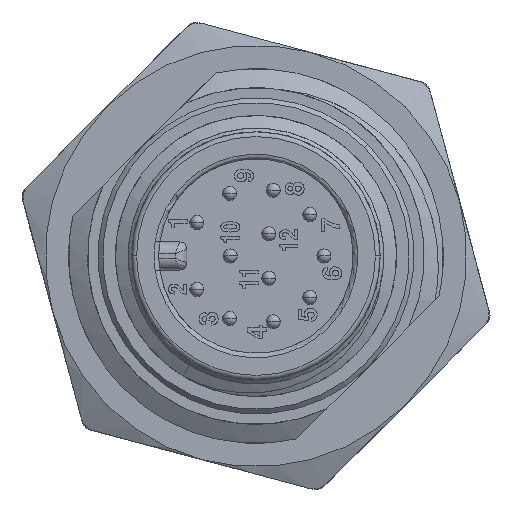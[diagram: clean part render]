
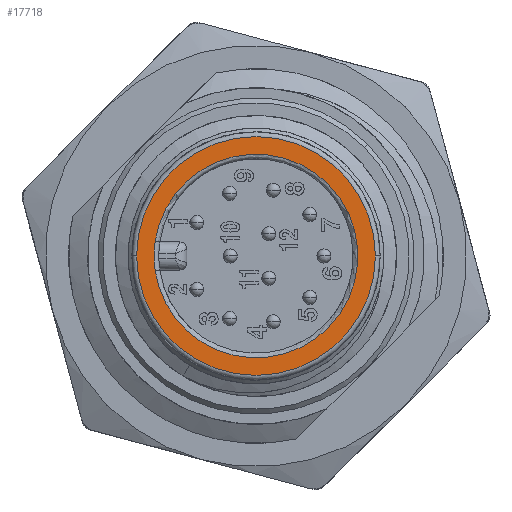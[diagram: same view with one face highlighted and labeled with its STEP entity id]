
A CAD part, left-side view. The second image highlights one B-rep face of the part: STEP entity #17718.
In plain terms, the highlighted planar face has unit normal (-1, 0, 0).
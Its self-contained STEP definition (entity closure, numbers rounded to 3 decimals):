
#42=CARTESIAN_POINT('',(-2.,0.,0.));
#43=DIRECTION('',(1.,0.,0.));
#44=DIRECTION('',(0.,-1.,0.));
#45=AXIS2_PLACEMENT_3D('',#42,#43,#44);
#47=CARTESIAN_POINT('',(-2.,0.,0.));
#48=DIRECTION('',(1.,0.,0.));
#49=DIRECTION('',(0.,1.,0.));
#50=AXIS2_PLACEMENT_3D('',#47,#48,#49);
#52=CARTESIAN_POINT('',(-2.,0.,0.));
#53=DIRECTION('',(-1.,0.,0.));
#54=DIRECTION('',(0.,0.989,0.145));
#55=AXIS2_PLACEMENT_3D('',#52,#53,#54);
#57=CARTESIAN_POINT('',(-2.,0.,0.));
#58=DIRECTION('',(-1.,0.,0.));
#59=DIRECTION('',(0.,0.989,-0.145));
#60=AXIS2_PLACEMENT_3D('',#57,#58,#59);
#15639=CARTESIAN_POINT('',(-2.,-5.1,0.));
#15640=CARTESIAN_POINT('',(-2.,5.1,0.));
#15641=VERTEX_POINT('',#15639);
#15642=VERTEX_POINT('',#15640);
#15643=CARTESIAN_POINT('',(-2.,4.304,0.629));
#15644=CARTESIAN_POINT('',(-2.,4.304,-0.629));
#15645=VERTEX_POINT('',#15643);
#15646=VERTEX_POINT('',#15644);
#17701=CARTESIAN_POINT('',(-2.,0.,0.));
#17702=DIRECTION('',(1.,0.,0.));
#17703=DIRECTION('',(0.,-1.,0.));
#17704=AXIS2_PLACEMENT_3D('',#17701,#17702,#17703);
#17705=PLANE('',#17704);
#17707=ORIENTED_EDGE('',*,*,#17706,.T.);
#17709=ORIENTED_EDGE('',*,*,#17708,.T.);
#17710=EDGE_LOOP('',(#17707,#17709));
#17711=FACE_OUTER_BOUND('',#17710,.F.);
#17713=ORIENTED_EDGE('',*,*,#17712,.T.);
#17715=ORIENTED_EDGE('',*,*,#17714,.T.);
#17716=EDGE_LOOP('',(#17713,#17715));
#17717=FACE_BOUND('',#17716,.F.);
#17718=ADVANCED_FACE('',(#17711,#17717),#17705,.F.);
#46=CIRCLE('',#45,5.1);
#51=CIRCLE('',#50,5.1);
#56=CIRCLE('',#55,4.35);
#61=CIRCLE('',#60,4.35);
#17706=EDGE_CURVE('',#15641,#15642,#46,.T.);
#17708=EDGE_CURVE('',#15642,#15641,#51,.T.);
#17712=EDGE_CURVE('',#15645,#15646,#56,.T.);
#17714=EDGE_CURVE('',#15646,#15645,#61,.T.);
